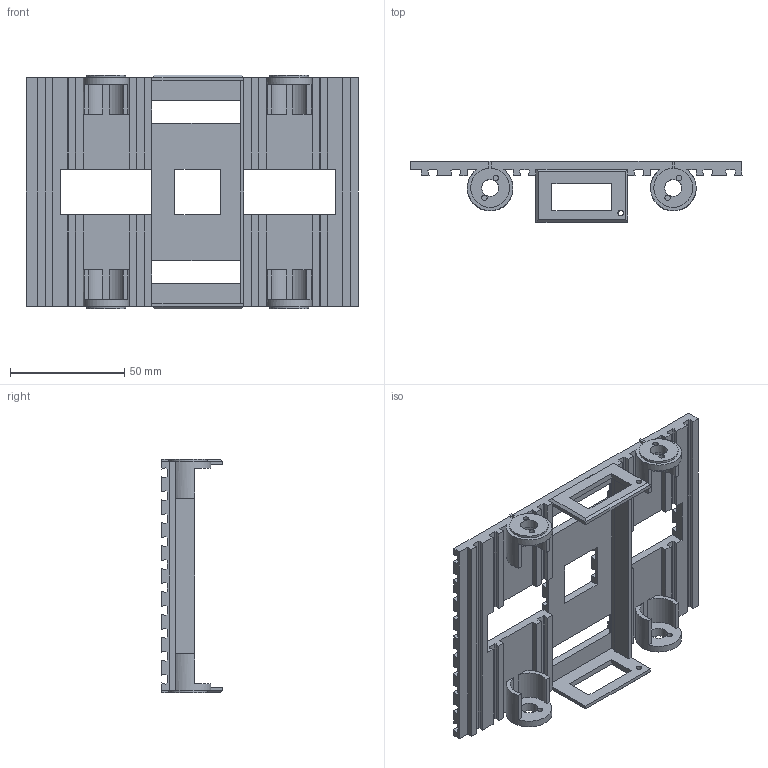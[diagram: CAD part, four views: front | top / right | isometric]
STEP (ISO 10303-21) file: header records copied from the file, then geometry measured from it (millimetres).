
FILE_DESCRIPTION(/* description */ (''),/* implementation_level */ '2;1');
FILE_NAME(/* name */ 'C:/Users/priba/Downloads/Chassis16mmL14Batt.step',/* time_stamp */ '2021-09-17T13:23:30+02:00',/* author */ (''),/* organization */ (''),/* preprocessor_version */ 'ST-DEVELOPER v18.1',/* originating_system */ 'Autodesk Translation Framework v10.10.0.1391',/* authorisation */ '');
FILE_SCHEMA (('AUTOMOTIVE_DESIGN { 1 0 10303 214 3 1 1 }'));
Length unit declared in the file: millimetre
Products named in the file (1): Chassis16mmL14Batt2
Bounding box: 145 x 26.5 x 102 mm (x, y, z)
Volume: 48375.1 mm3; surface area: 48413.1 mm2
Topology: 1 solids, 1 shells, 303 faces, 918 edges, 608 vertices
Faces by surface type: plane 273, cylinder 30
Full cylindrical faces by diameter (mm): 2.4 x10, 7.4 x4
Entity records: 10230 total; most frequent: ORIENTED_EDGE 1836, CARTESIAN_POINT 1830, DIRECTION 1594, EDGE_CURVE 918, LINE 850, VECTOR 850, VERTEX_POINT 608, AXIS2_PLACEMENT_3D 372
